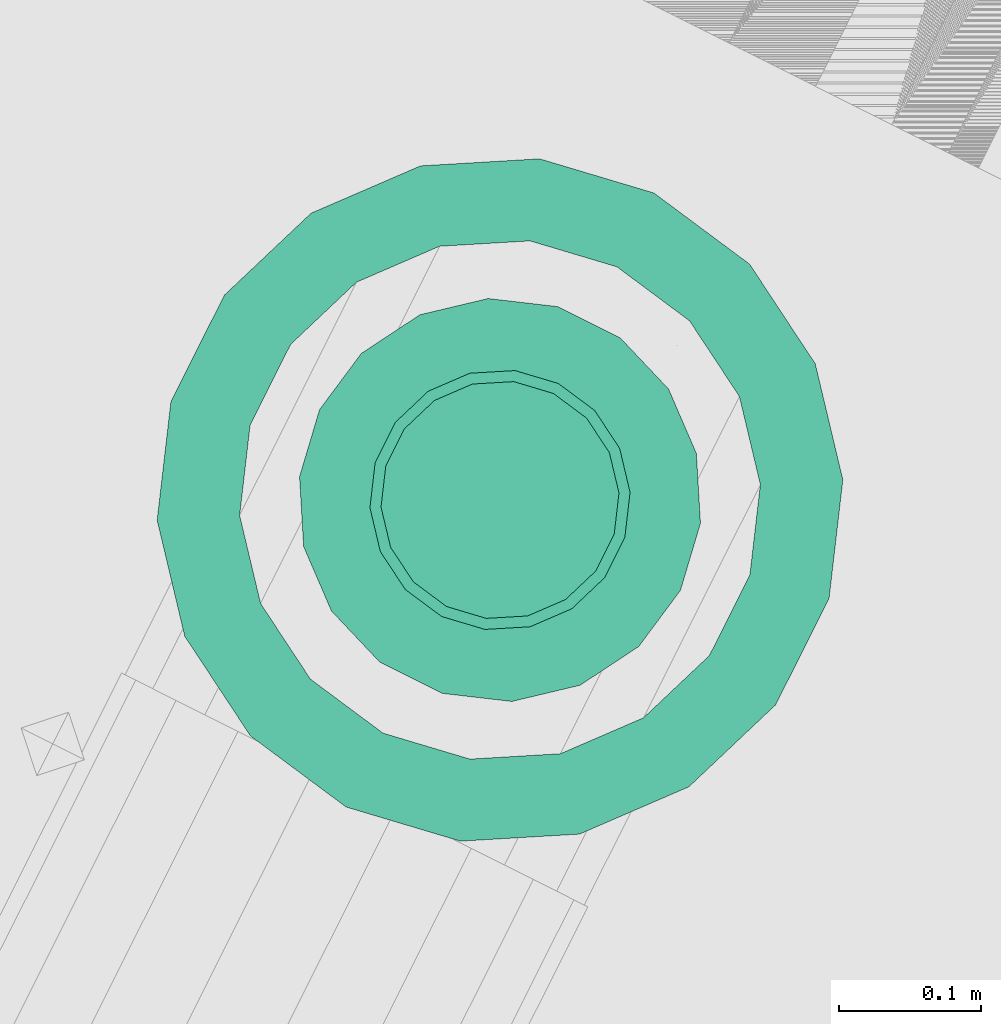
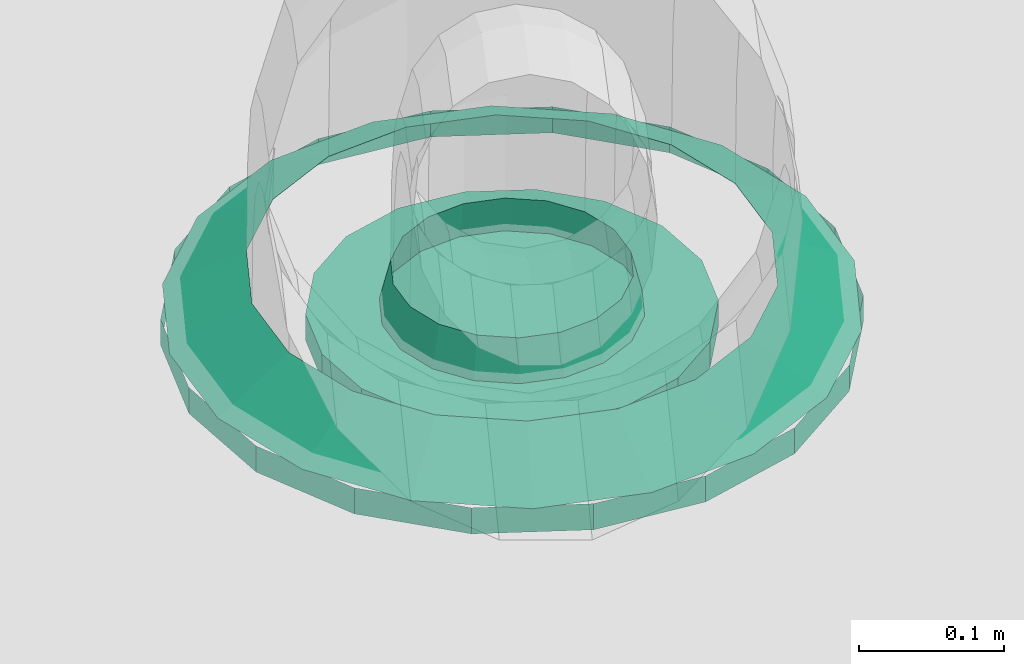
# One storey, part 131 of 206: 2 flow fittings.
"""IFC2X3 building model written with IfcOpenShell, lengths in metres."""

from ifc_helpers import new_model, si_unit, derived_unit, direction, frame, origin, place, context, subcontext, project, spatial, face_set, surface_model, source, transform, mapped, material, type_object, type_shapes, element, save


model = new_model("IFC2X3")

# Units and contexts
model_context = context("Model", 3, precision=5.2338327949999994e-05, world=origin(), true_north=direction((0.0, 1.0)))
body_context = subcontext(model_context, "Body", "Model", "MODEL_VIEW")
ifc_project = project(units=[si_unit("LENGTHUNIT", "METRE"), si_unit("AREAUNIT", "SQUARE_METRE"), si_unit("VOLUMEUNIT", "CUBIC_METRE"), si_unit("MASSUNIT", "GRAM", prefix="KILO"), si_unit("PLANEANGLEUNIT", "RADIAN"), derived_unit("THERMALTRANSMITTANCEUNIT", [(si_unit("MASSUNIT", "GRAM", prefix="KILO"), 1), (si_unit("THERMODYNAMICTEMPERATUREUNIT", "KELVIN"), -1), (si_unit("TIMEUNIT", "SECOND"), -3)])], contexts=[model_context])

# Site, building, storey
site_placement = place(None, frame((0.0, 0.0, 0.0), z_axis=(0.0, 0.0, 1.0), x_axis=(0.8939966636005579, -0.4480736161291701, 0.0)))
site = spatial("IfcSite", under=ifc_project, at=site_placement, Name="Default", CompositionType="ELEMENT")
building_placement = place(site_placement, origin())
building = spatial("IfcBuilding", under=site, at=building_placement, CompositionType="ELEMENT")
storey_placement = place(building_placement, origin())
storey = spatial("IfcBuildingStorey", under=building, at=storey_placement, Name="Erdgeschoss", CompositionType="ELEMENT", Elevation=0.0)

# Flow fittings
ifc_material = material(Name="IfcSurfaceStyle #9317")
distribution_element_type_1 = type_object("IfcDistributionElementType", material=ifc_material)
shared_shape_1 = source(origin(), body_context, "Body", "SurfaceModel", [
    surface_model("IfcFaceBasedSurfaceModel", [(26.38732323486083, 7.367307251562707, 2.07), (26.39591703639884, 7.3185693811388, 2.07), (26.39591703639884, 7.3185693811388, 2.0919999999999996), (26.38732323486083, 7.367307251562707, 2.0919999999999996), (26.42066190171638, 7.275710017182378, 2.07), (26.42066190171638, 7.275710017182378, 2.0919999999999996), (26.45857323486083, 7.243898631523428, 2.07), (26.45857323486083, 7.243898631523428, 2.0919999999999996), (26.505078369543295, 7.226972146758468, 2.07), (26.505078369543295, 7.226972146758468, 2.0919999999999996), (26.55456810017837, 7.226972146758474, 2.07), (26.55456810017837, 7.226972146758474, 2.0919999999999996), (26.60107323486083, 7.243898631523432, 2.07), (26.60107323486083, 7.243898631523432, 2.0919999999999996), (26.63898456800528, 7.27571001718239, 2.07), (26.63898456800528, 7.27571001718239, 2.0919999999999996), (26.663729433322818, 7.318569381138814, 2.07), (26.663729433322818, 7.318569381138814, 2.0919999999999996), (26.672323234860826, 7.36730725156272, 2.07), (26.672323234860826, 7.36730725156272, 2.0919999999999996), (26.663729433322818, 7.4160451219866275, 2.07), (26.663729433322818, 7.4160451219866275, 2.0919999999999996), (26.63898456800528, 7.45890448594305, 2.07), (26.63898456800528, 7.45890448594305, 2.0919999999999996), (26.60107323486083, 7.4907158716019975, 2.07), (26.60107323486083, 7.4907158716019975, 2.0919999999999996), (26.55456810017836, 7.507642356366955, 2.07), (26.55456810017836, 7.507642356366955, 2.0919999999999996), (26.505078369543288, 7.507642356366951, 2.07), (26.505078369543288, 7.507642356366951, 2.0919999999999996), (26.45857323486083, 7.490715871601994, 2.07), (26.45857323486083, 7.490715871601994, 2.0919999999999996), (26.42066190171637, 7.458904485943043, 2.07), (26.42066190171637, 7.458904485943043, 2.0919999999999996), (26.395917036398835, 7.416045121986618, 2.07), (26.395917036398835, 7.416045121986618, 2.0919999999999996), (26.529823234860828, 7.367307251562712, 2.091999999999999), (26.529823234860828, 7.275307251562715, 2.091999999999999), (26.56128908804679, 7.280855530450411, 2.091999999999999), (26.558604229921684, 7.28823211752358, 2.1249999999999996), (26.529823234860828, 7.283157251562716, 2.1249999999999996), (26.58895969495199, 7.296831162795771, 2.091999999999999), (26.58391381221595, 7.302844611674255, 2.1249999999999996), (26.609497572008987, 7.32130725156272, 2.0919999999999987), (26.602699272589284, 7.325232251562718, 2.124999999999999), (26.620425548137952, 7.351331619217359, 2.0919999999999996), (26.612694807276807, 7.352694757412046, 2.125), (26.620425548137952, 7.383282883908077, 2.0919999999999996), (26.612694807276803, 7.381919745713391, 2.125), (26.60949757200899, 7.413307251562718, 2.091999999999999), (26.602699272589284, 7.409382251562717, 2.1249999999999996), (26.58895969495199, 7.437783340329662, 2.0920000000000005), (26.58391381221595, 7.431769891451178, 2.125000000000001), (26.56128908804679, 7.453758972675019, 2.0919999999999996), (26.558604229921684, 7.446382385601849, 2.125), (26.529823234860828, 7.459307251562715, 2.0919999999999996), (26.529823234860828, 7.451457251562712, 2.125), (26.498357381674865, 7.453758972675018, 2.0919999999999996), (26.50104223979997, 7.446382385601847, 2.125), (26.470686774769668, 7.437783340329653, 2.091999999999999), (26.47573265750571, 7.431769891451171, 2.1249999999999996), (26.450148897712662, 7.413307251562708, 2.091999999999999), (26.456947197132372, 7.40938225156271, 2.1249999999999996), (26.439220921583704, 7.383282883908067, 2.0919999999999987), (26.446951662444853, 7.3819197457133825, 2.124999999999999), (26.439220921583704, 7.351331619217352, 2.091999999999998), (26.44695166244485, 7.3526947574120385, 2.1249999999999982), (26.450148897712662, 7.321307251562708, 2.0919999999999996), (26.45694719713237, 7.325232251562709, 2.125), (26.470686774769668, 7.296831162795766, 2.0919999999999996), (26.47573265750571, 7.302844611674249, 2.125), (26.498357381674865, 7.280855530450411, 2.091999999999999), (26.501042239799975, 7.288232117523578, 2.1249999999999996), (26.287323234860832, 7.3673072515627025, 2.07), (26.301947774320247, 7.284367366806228, 2.07), (26.301947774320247, 7.284367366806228, 2.0919999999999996), (26.287323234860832, 7.367307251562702, 2.0919999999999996), (26.34405745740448, 7.211431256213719, 2.07), (26.34405745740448, 7.211431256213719, 2.0919999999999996), (26.408573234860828, 7.157296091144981, 2.07), (26.408573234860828, 7.157296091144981, 2.0919999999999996), (26.487713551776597, 7.128491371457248, 2.07), (26.487713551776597, 7.128491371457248, 2.0919999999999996), (26.571932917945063, 7.128491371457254, 2.07), (26.571932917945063, 7.128491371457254, 2.0919999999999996), (26.651073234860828, 7.157296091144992, 2.07), (26.651073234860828, 7.157296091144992, 2.0919999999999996), (26.715589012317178, 7.211431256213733, 2.07), (26.715589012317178, 7.211431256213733, 2.0919999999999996), (26.75769869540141, 7.284367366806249, 2.07), (26.75769869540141, 7.284367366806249, 2.0919999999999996), (26.772323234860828, 7.367307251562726, 2.07), (26.772323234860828, 7.367307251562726, 2.0919999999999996), (26.75769869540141, 7.4502471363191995, 2.07), (26.75769869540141, 7.4502471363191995, 2.0919999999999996), (26.715589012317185, 7.523183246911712, 2.07), (26.715589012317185, 7.523183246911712, 2.0919999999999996), (26.651073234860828, 7.577318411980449, 2.07), (26.651073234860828, 7.577318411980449, 2.0919999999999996), (26.57193291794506, 7.606123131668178, 2.07), (26.57193291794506, 7.606123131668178, 2.0919999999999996), (26.487713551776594, 7.606123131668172, 2.07), (26.487713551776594, 7.606123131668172, 2.0919999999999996), (26.408573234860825, 7.577318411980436, 2.07), (26.408573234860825, 7.577318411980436, 2.0919999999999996), (26.344057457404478, 7.523183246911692, 2.07), (26.344057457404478, 7.523183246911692, 2.0919999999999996), (26.301947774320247, 7.450247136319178, 2.07), (26.301947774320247, 7.450247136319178, 2.0919999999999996), (26.529823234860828, 7.124807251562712, 2.091999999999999), (26.612763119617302, 7.139431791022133, 2.091999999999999), (26.592806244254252, 7.1942628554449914, 2.1249999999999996), (26.529823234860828, 7.1831572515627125, 2.124999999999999), (26.68569923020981, 7.181541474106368, 2.0919999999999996), (26.648192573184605, 7.226240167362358, 2.125), (26.73983439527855, 7.246057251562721, 2.0919999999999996), (26.68930181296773, 7.275232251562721, 2.125), (26.768639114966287, 7.325197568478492, 2.091999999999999), (26.711175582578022, 7.335329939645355, 2.1249999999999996), (26.768639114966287, 7.409416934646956, 2.092000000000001), (26.711175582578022, 7.399284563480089, 2.1250000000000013), (26.73983439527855, 7.488557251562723, 2.091999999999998), (26.68930181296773, 7.459382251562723, 2.1249999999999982), (26.68569923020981, 7.5530730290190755, 2.092), (26.6481925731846, 7.508374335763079, 2.1250000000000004), (26.612763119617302, 7.5951827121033, 2.091999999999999), (26.592806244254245, 7.540351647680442, 2.1249999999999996), (26.529823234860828, 7.609807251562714, 2.0919999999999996), (26.529823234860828, 7.551457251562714, 2.125), (26.446883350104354, 7.595182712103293, 2.0919999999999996), (26.466840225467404, 7.540351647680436, 2.125), (26.373947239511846, 7.55307302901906, 2.0919999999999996), (26.411453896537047, 7.508374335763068, 2.125), (26.319812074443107, 7.488557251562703, 2.0919999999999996), (26.37034465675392, 7.459382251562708, 2.125), (26.29100735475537, 7.4094169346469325, 2.0920000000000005), (26.34847088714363, 7.39928456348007, 2.125000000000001), (26.29100735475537, 7.325197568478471, 2.0919999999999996), (26.34847088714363, 7.335329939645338, 2.125), (26.319812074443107, 7.246057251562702, 2.091999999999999), (26.37034465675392, 7.275232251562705, 2.1249999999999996), (26.373947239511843, 7.181541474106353, 2.092000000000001), (26.41145389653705, 7.226240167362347, 2.1250000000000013), (26.446883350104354, 7.1394317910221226, 2.0920000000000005), (26.46684022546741, 7.194262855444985, 2.125000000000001)], [face_set([[[0, 1, 2, 3]], [[1, 4, 5, 2]], [[4, 6, 7, 5]], [[6, 8, 9, 7]], [[8, 10, 11, 9]], [[10, 12, 13, 11]], [[12, 14, 15, 13]], [[14, 16, 17, 15]], [[16, 18, 19, 17]], [[18, 20, 21, 19]], [[20, 22, 23, 21]], [[22, 24, 25, 23]], [[24, 26, 27, 25]], [[26, 28, 29, 27]], [[28, 30, 31, 29]], [[30, 32, 33, 31]], [[32, 34, 35, 33]], [[34, 0, 3, 35]], [[36, 35, 3]], [[36, 33, 35]], [[36, 31, 33]], [[36, 29, 31]], [[36, 27, 29]], [[36, 25, 27]], [[36, 23, 25]], [[36, 21, 23]], [[36, 19, 21]], [[36, 17, 19]], [[36, 15, 17]], [[36, 13, 15]], [[36, 11, 13]], [[36, 9, 11]], [[36, 7, 9]], [[36, 5, 7]], [[36, 2, 5]], [[36, 3, 2]], [[37, 38, 39, 40]], [[38, 41, 42, 39]], [[41, 43, 44, 42]], [[43, 45, 46, 44]], [[45, 47, 48, 46]], [[47, 49, 50, 48]], [[49, 51, 52, 50]], [[51, 53, 54, 52]], [[53, 55, 56, 54]], [[55, 57, 58, 56]], [[57, 59, 60, 58]], [[59, 61, 62, 60]], [[61, 63, 64, 62]], [[63, 65, 66, 64]], [[65, 67, 68, 66]], [[67, 69, 70, 68]], [[69, 71, 72, 70]], [[71, 37, 40, 72]], [[73, 74, 75, 76]], [[74, 77, 78, 75]], [[77, 79, 80, 78]], [[79, 81, 82, 80]], [[81, 83, 84, 82]], [[83, 85, 86, 84]], [[85, 87, 88, 86]], [[87, 89, 90, 88]], [[89, 91, 92, 90]], [[91, 93, 94, 92]], [[93, 95, 96, 94]], [[95, 97, 98, 96]], [[97, 99, 100, 98]], [[99, 101, 102, 100]], [[101, 103, 104, 102]], [[103, 105, 106, 104]], [[105, 107, 108, 106]], [[107, 73, 76, 108]], [[109, 110, 111, 112]], [[110, 113, 114, 111]], [[113, 115, 116, 114]], [[115, 117, 118, 116]], [[117, 119, 120, 118]], [[119, 121, 122, 120]], [[121, 123, 124, 122]], [[123, 125, 126, 124]], [[125, 127, 128, 126]], [[127, 129, 130, 128]], [[129, 131, 132, 130]], [[131, 133, 134, 132]], [[133, 135, 136, 134]], [[135, 137, 138, 136]], [[137, 139, 140, 138]], [[139, 141, 142, 140]], [[141, 143, 144, 142]], [[143, 109, 112, 144]]])]),
])
type_shapes(distribution_element_type_1, [shared_shape_1])
flow_fitting_1_placement = place(storey_placement, origin())
element("IfcFlowFitting", 1, at=flow_fitting_1_placement, inside=storey, type_object=distribution_element_type_1, material=ifc_material, Name="Flansch", ObjectType="Flansch", context=body_context, shape_type="MappedRepresentation", body=[
    mapped(shared_shape_1, transform((0.0, 0.0, 0.0), scale=1.0)),
])
distribution_element_type_2 = type_object("IfcDistributionElementType", material=ifc_material)
shared_shape_2 = source(origin(), body_context, "Body", "SurfaceModel", [
    surface_model("IfcFaceBasedSurfaceModel", [(26.38732323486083, 7.367307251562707, 2.07), (26.39591703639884, 7.3185693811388, 2.07), (26.39591703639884, 7.3185693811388, 2.0919999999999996), (26.38732323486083, 7.367307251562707, 2.0919999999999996), (26.42066190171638, 7.275710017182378, 2.07), (26.42066190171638, 7.275710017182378, 2.0919999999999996), (26.45857323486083, 7.243898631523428, 2.07), (26.45857323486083, 7.243898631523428, 2.0919999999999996), (26.505078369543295, 7.226972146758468, 2.07), (26.505078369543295, 7.226972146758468, 2.0919999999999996), (26.55456810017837, 7.226972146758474, 2.07), (26.55456810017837, 7.226972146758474, 2.0919999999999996), (26.60107323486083, 7.243898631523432, 2.07), (26.60107323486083, 7.243898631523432, 2.0919999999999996), (26.63898456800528, 7.27571001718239, 2.07), (26.63898456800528, 7.27571001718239, 2.0919999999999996), (26.663729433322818, 7.318569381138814, 2.07), (26.663729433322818, 7.318569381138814, 2.0919999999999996), (26.672323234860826, 7.36730725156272, 2.07), (26.672323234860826, 7.36730725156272, 2.0919999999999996), (26.663729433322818, 7.4160451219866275, 2.07), (26.663729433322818, 7.4160451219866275, 2.0919999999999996), (26.63898456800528, 7.45890448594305, 2.07), (26.63898456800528, 7.45890448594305, 2.0919999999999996), (26.60107323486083, 7.4907158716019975, 2.07), (26.60107323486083, 7.4907158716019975, 2.0919999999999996), (26.55456810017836, 7.507642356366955, 2.07), (26.55456810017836, 7.507642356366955, 2.0919999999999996), (26.505078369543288, 7.507642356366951, 2.07), (26.505078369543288, 7.507642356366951, 2.0919999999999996), (26.45857323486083, 7.490715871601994, 2.07), (26.45857323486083, 7.490715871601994, 2.0919999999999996), (26.42066190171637, 7.458904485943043, 2.07), (26.42066190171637, 7.458904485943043, 2.0919999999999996), (26.395917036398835, 7.416045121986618, 2.07), (26.395917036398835, 7.416045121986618, 2.0919999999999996), (26.529823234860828, 7.367307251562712, 2.091999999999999), (26.529823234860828, 7.275307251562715, 2.091999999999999), (26.56128908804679, 7.280855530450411, 2.091999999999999), (26.558604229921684, 7.28823211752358, 2.1249999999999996), (26.529823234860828, 7.283157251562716, 2.1249999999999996), (26.58895969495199, 7.296831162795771, 2.091999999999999), (26.58391381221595, 7.302844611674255, 2.1249999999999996), (26.609497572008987, 7.32130725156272, 2.0919999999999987), (26.602699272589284, 7.325232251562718, 2.124999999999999), (26.620425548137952, 7.351331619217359, 2.0919999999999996), (26.612694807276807, 7.352694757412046, 2.125), (26.620425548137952, 7.383282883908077, 2.0919999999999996), (26.612694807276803, 7.381919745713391, 2.125), (26.60949757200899, 7.413307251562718, 2.091999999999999), (26.602699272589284, 7.409382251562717, 2.1249999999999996), (26.58895969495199, 7.437783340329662, 2.0920000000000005), (26.58391381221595, 7.431769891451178, 2.125000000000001), (26.56128908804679, 7.453758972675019, 2.0919999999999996), (26.558604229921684, 7.446382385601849, 2.125), (26.529823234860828, 7.459307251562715, 2.0919999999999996), (26.529823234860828, 7.451457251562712, 2.125), (26.498357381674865, 7.453758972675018, 2.0919999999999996), (26.50104223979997, 7.446382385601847, 2.125), (26.470686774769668, 7.437783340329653, 2.091999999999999), (26.47573265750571, 7.431769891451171, 2.1249999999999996), (26.450148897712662, 7.413307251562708, 2.091999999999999), (26.456947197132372, 7.40938225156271, 2.1249999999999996), (26.439220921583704, 7.383282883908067, 2.0919999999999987), (26.446951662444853, 7.3819197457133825, 2.124999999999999), (26.439220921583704, 7.351331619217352, 2.091999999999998), (26.44695166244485, 7.3526947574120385, 2.1249999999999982), (26.450148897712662, 7.321307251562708, 2.0919999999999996), (26.45694719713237, 7.325232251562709, 2.125), (26.470686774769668, 7.296831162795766, 2.0919999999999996), (26.47573265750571, 7.302844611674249, 2.125), (26.498357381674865, 7.280855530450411, 2.091999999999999), (26.501042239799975, 7.288232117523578, 2.1249999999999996), (26.287323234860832, 7.3673072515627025, 2.07), (26.301947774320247, 7.284367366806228, 2.07), (26.301947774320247, 7.284367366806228, 2.0919999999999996), (26.287323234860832, 7.367307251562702, 2.0919999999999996), (26.34405745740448, 7.211431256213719, 2.07), (26.34405745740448, 7.211431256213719, 2.0919999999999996), (26.408573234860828, 7.157296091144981, 2.07), (26.408573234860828, 7.157296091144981, 2.0919999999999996), (26.487713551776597, 7.128491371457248, 2.07), (26.487713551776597, 7.128491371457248, 2.0919999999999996), (26.571932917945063, 7.128491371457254, 2.07), (26.571932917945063, 7.128491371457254, 2.0919999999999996), (26.651073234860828, 7.157296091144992, 2.07), (26.651073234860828, 7.157296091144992, 2.0919999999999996), (26.715589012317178, 7.211431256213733, 2.07), (26.715589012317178, 7.211431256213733, 2.0919999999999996), (26.75769869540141, 7.284367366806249, 2.07), (26.75769869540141, 7.284367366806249, 2.0919999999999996), (26.772323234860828, 7.367307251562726, 2.07), (26.772323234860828, 7.367307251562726, 2.0919999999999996), (26.75769869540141, 7.4502471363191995, 2.07), (26.75769869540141, 7.4502471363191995, 2.0919999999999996), (26.715589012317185, 7.523183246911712, 2.07), (26.715589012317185, 7.523183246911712, 2.0919999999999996), (26.651073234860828, 7.577318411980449, 2.07), (26.651073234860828, 7.577318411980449, 2.0919999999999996), (26.57193291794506, 7.606123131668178, 2.07), (26.57193291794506, 7.606123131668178, 2.0919999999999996), (26.487713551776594, 7.606123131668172, 2.07), (26.487713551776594, 7.606123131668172, 2.0919999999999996), (26.408573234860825, 7.577318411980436, 2.07), (26.408573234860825, 7.577318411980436, 2.0919999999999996), (26.344057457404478, 7.523183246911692, 2.07), (26.344057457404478, 7.523183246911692, 2.0919999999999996), (26.301947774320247, 7.450247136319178, 2.07), (26.301947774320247, 7.450247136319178, 2.0919999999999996), (26.529823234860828, 7.124807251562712, 2.091999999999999), (26.612763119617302, 7.139431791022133, 2.091999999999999), (26.592806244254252, 7.1942628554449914, 2.1249999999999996), (26.529823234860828, 7.1831572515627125, 2.124999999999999), (26.68569923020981, 7.181541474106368, 2.0919999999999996), (26.648192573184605, 7.226240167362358, 2.125), (26.73983439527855, 7.246057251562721, 2.0919999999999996), (26.68930181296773, 7.275232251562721, 2.125), (26.768639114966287, 7.325197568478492, 2.091999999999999), (26.711175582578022, 7.335329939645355, 2.1249999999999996), (26.768639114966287, 7.409416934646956, 2.092000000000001), (26.711175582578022, 7.399284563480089, 2.1250000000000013), (26.73983439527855, 7.488557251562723, 2.091999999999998), (26.68930181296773, 7.459382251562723, 2.1249999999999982), (26.68569923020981, 7.5530730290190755, 2.092), (26.6481925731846, 7.508374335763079, 2.1250000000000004), (26.612763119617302, 7.5951827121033, 2.091999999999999), (26.592806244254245, 7.540351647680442, 2.1249999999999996), (26.529823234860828, 7.609807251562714, 2.0919999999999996), (26.529823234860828, 7.551457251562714, 2.125), (26.446883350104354, 7.595182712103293, 2.0919999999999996), (26.466840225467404, 7.540351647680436, 2.125), (26.373947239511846, 7.55307302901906, 2.0919999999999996), (26.411453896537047, 7.508374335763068, 2.125), (26.319812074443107, 7.488557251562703, 2.0919999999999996), (26.37034465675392, 7.459382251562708, 2.125), (26.29100735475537, 7.4094169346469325, 2.0920000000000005), (26.34847088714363, 7.39928456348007, 2.125000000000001), (26.29100735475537, 7.325197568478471, 2.0919999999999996), (26.34847088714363, 7.335329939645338, 2.125), (26.319812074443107, 7.246057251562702, 2.091999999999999), (26.37034465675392, 7.275232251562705, 2.1249999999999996), (26.373947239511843, 7.181541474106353, 2.092000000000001), (26.41145389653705, 7.226240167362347, 2.1250000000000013), (26.446883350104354, 7.1394317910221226, 2.0920000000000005), (26.46684022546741, 7.194262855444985, 2.125000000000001)], [face_set([[[0, 1, 2, 3]], [[1, 4, 5, 2]], [[4, 6, 7, 5]], [[6, 8, 9, 7]], [[8, 10, 11, 9]], [[10, 12, 13, 11]], [[12, 14, 15, 13]], [[14, 16, 17, 15]], [[16, 18, 19, 17]], [[18, 20, 21, 19]], [[20, 22, 23, 21]], [[22, 24, 25, 23]], [[24, 26, 27, 25]], [[26, 28, 29, 27]], [[28, 30, 31, 29]], [[30, 32, 33, 31]], [[32, 34, 35, 33]], [[34, 0, 3, 35]], [[36, 35, 3]], [[36, 33, 35]], [[36, 31, 33]], [[36, 29, 31]], [[36, 27, 29]], [[36, 25, 27]], [[36, 23, 25]], [[36, 21, 23]], [[36, 19, 21]], [[36, 17, 19]], [[36, 15, 17]], [[36, 13, 15]], [[36, 11, 13]], [[36, 9, 11]], [[36, 7, 9]], [[36, 5, 7]], [[36, 2, 5]], [[36, 3, 2]], [[37, 38, 39, 40]], [[38, 41, 42, 39]], [[41, 43, 44, 42]], [[43, 45, 46, 44]], [[45, 47, 48, 46]], [[47, 49, 50, 48]], [[49, 51, 52, 50]], [[51, 53, 54, 52]], [[53, 55, 56, 54]], [[55, 57, 58, 56]], [[57, 59, 60, 58]], [[59, 61, 62, 60]], [[61, 63, 64, 62]], [[63, 65, 66, 64]], [[65, 67, 68, 66]], [[67, 69, 70, 68]], [[69, 71, 72, 70]], [[71, 37, 40, 72]], [[73, 74, 75, 76]], [[74, 77, 78, 75]], [[77, 79, 80, 78]], [[79, 81, 82, 80]], [[81, 83, 84, 82]], [[83, 85, 86, 84]], [[85, 87, 88, 86]], [[87, 89, 90, 88]], [[89, 91, 92, 90]], [[91, 93, 94, 92]], [[93, 95, 96, 94]], [[95, 97, 98, 96]], [[97, 99, 100, 98]], [[99, 101, 102, 100]], [[101, 103, 104, 102]], [[103, 105, 106, 104]], [[105, 107, 108, 106]], [[107, 73, 76, 108]], [[109, 110, 111, 112]], [[110, 113, 114, 111]], [[113, 115, 116, 114]], [[115, 117, 118, 116]], [[117, 119, 120, 118]], [[119, 121, 122, 120]], [[121, 123, 124, 122]], [[123, 125, 126, 124]], [[125, 127, 128, 126]], [[127, 129, 130, 128]], [[129, 131, 132, 130]], [[131, 133, 134, 132]], [[133, 135, 136, 134]], [[135, 137, 138, 136]], [[137, 139, 140, 138]], [[139, 141, 142, 140]], [[141, 143, 144, 142]], [[143, 109, 112, 144]]])]),
])
type_shapes(distribution_element_type_2, [shared_shape_2])
flow_fitting_2_placement = place(storey_placement, origin())
element("IfcFlowFitting", 2, at=flow_fitting_2_placement, inside=storey, type_object=distribution_element_type_2, material=ifc_material, Name="Flansch", ObjectType="Flansch", context=body_context, shape_type="MappedRepresentation", body=[
    mapped(shared_shape_2, transform((0.0, 0.0, 0.0), scale=1.0)),
])

save(model, "model.ifc")
